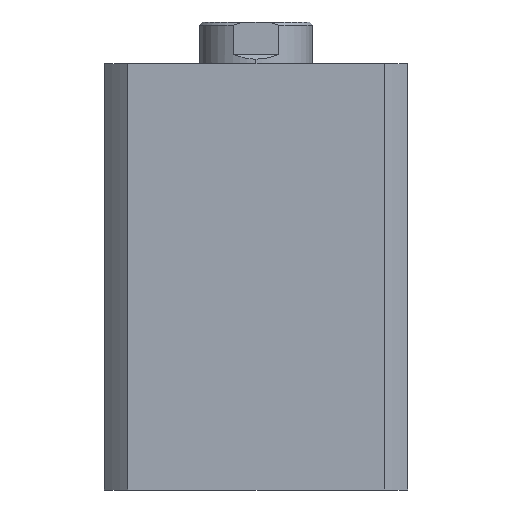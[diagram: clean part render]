
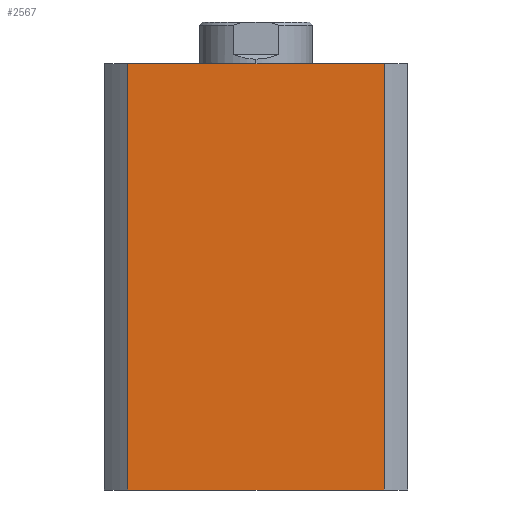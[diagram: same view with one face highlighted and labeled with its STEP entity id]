
A CAD part, left-side view. The second image highlights one B-rep face of the part: STEP entity #2567.
In plain terms, the highlighted planar face has unit normal (-1, 0, 0).
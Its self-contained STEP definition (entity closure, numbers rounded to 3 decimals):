
#525 = FACE_OUTER_BOUND ( 'NONE', #1877, .T. ) ;
#694 = VECTOR ( 'NONE', #3277, 1000. ) ;
#695 = LINE ( 'NONE', #3280, #694 ) ;
#773 = LINE ( 'NONE', #4596, #779 ) ;
#775 = LINE ( 'NONE', #4594, #777 ) ;
#777 = VECTOR ( 'NONE', #4591, 1000. ) ;
#778 = LINE ( 'NONE', #4602, #781 ) ;
#779 = VECTOR ( 'NONE', #4601, 1000. ) ;
#781 = VECTOR ( 'NONE', #4604, 1000. ) ;
#1877 = EDGE_LOOP ( 'NONE', ( #2694, #2692, #2693, #2691 ) ) ;
#2067 = CARTESIAN_POINT ( 'NONE',  ( -47., 0., 132. ) ) ;
#2072 = PLANE ( 'NONE',  #4293 ) ;
#2075 = DIRECTION ( 'NONE',  ( 1., 0., 0. ) ) ;
#2076 = DIRECTION ( 'NONE',  ( 0., 0., -1. ) ) ;
#2567 = ADVANCED_FACE ( 'NONE', ( #525 ), #2072, .F. ) ;
#2691 = ORIENTED_EDGE ( 'NONE', *, *, #3704, .T. ) ;
#2692 = ORIENTED_EDGE ( 'NONE', *, *, #3706, .F. ) ;
#2693 = ORIENTED_EDGE ( 'NONE', *, *, #3671, .F. ) ;
#2694 = ORIENTED_EDGE ( 'NONE', *, *, #3705, .T. ) ;
#3277 = DIRECTION ( 'NONE',  ( 0., -1., 0. ) ) ;
#3280 = CARTESIAN_POINT ( 'NONE',  ( -47., 0., 132. ) ) ;
#3526 = CARTESIAN_POINT ( 'NONE',  ( -47., 39.664, 132. ) ) ;
#3527 = CARTESIAN_POINT ( 'NONE',  ( -47., -39.664, 132. ) ) ;
#3547 = CARTESIAN_POINT ( 'NONE',  ( -47., 39.664, 0. ) ) ;
#3548 = CARTESIAN_POINT ( 'NONE',  ( -47., -39.664, 0. ) ) ;
#3671 = EDGE_CURVE ( 'NONE', #4824, #4825, #695, .T. ) ;
#3704 = EDGE_CURVE ( 'NONE', #4824, #4845, #775, .T. ) ;
#3705 = EDGE_CURVE ( 'NONE', #4845, #4846, #773, .T. ) ;
#3706 = EDGE_CURVE ( 'NONE', #4825, #4846, #778, .T. ) ;
#4293 = AXIS2_PLACEMENT_3D ( 'NONE', #2067, #2075, #2076 ) ;
#4591 = DIRECTION ( 'NONE',  ( 0., 0., -1. ) ) ;
#4594 = CARTESIAN_POINT ( 'NONE',  ( -47., 39.664, 132. ) ) ;
#4596 = CARTESIAN_POINT ( 'NONE',  ( -47., 0., 0. ) ) ;
#4601 = DIRECTION ( 'NONE',  ( 0., -1., 0. ) ) ;
#4602 = CARTESIAN_POINT ( 'NONE',  ( -47., -39.664, 132. ) ) ;
#4604 = DIRECTION ( 'NONE',  ( 0., 0., -1. ) ) ;
#4824 = VERTEX_POINT ( 'NONE', #3526 ) ;
#4825 = VERTEX_POINT ( 'NONE', #3527 ) ;
#4845 = VERTEX_POINT ( 'NONE', #3547 ) ;
#4846 = VERTEX_POINT ( 'NONE', #3548 ) ;
